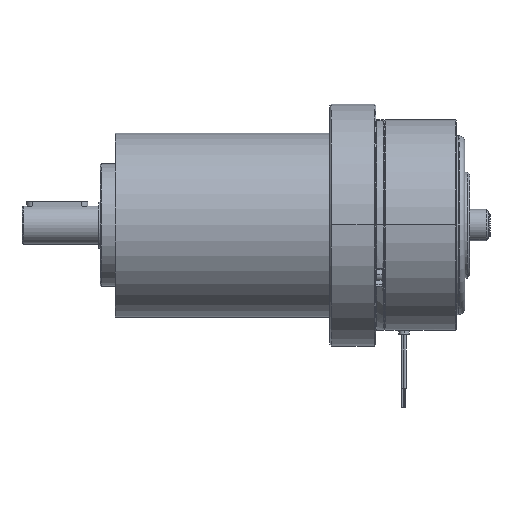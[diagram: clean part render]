
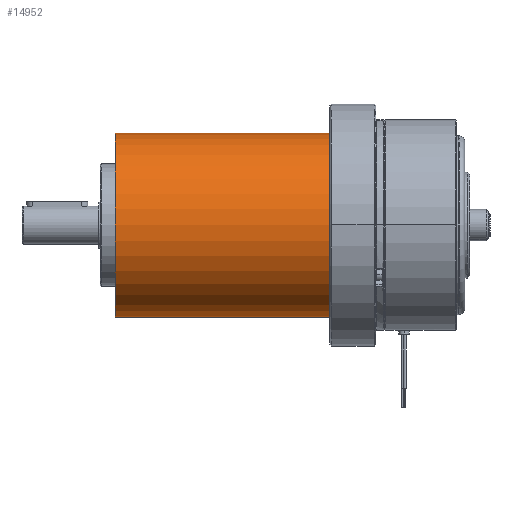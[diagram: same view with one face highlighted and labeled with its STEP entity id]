
A CAD part, top view. The second image highlights one B-rep face of the part: STEP entity #14952.
In plain terms, the highlighted cylindrical face has radius 60 mm (diameter 120 mm), a partial arc.
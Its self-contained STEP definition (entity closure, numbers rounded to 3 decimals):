
#613 = VERTEX_POINT ( 'NONE', #28303 ) ;
#1655 = CARTESIAN_POINT ( 'NONE',  ( 201., 0., 0. ) ) ;
#1694 = CARTESIAN_POINT ( 'NONE',  ( 131., 0., 0. ) ) ;
#1912 = VECTOR ( 'NONE', #25376, 1000. ) ;
#2157 = ORIENTED_EDGE ( 'NONE', *, *, #10562, .F. ) ;
#2695 = AXIS2_PLACEMENT_3D ( 'NONE', #44827, #48297, #9371 ) ;
#6292 = DIRECTION ( 'NONE',  ( 0., 1., 0. ) ) ;
#6875 = EDGE_CURVE ( 'NONE', #57214, #35471, #17640, .T. ) ;
#9371 = DIRECTION ( 'NONE',  ( 0., 1., 0. ) ) ;
#10562 = EDGE_CURVE ( 'NONE', #57214, #613, #17580, .T. ) ;
#11966 = EDGE_CURVE ( 'NONE', #613, #15717, #34947, .T. ) ;
#14952 = ADVANCED_FACE ( 'NONE', ( #28101 ), #23722, .T. ) ;
#15319 = ORIENTED_EDGE ( 'NONE', *, *, #11966, .F. ) ;
#15717 = VERTEX_POINT ( 'NONE', #28533 ) ;
#17265 = CARTESIAN_POINT ( 'NONE',  ( 131., -60., 0. ) ) ;
#17389 = AXIS2_PLACEMENT_3D ( 'NONE', #1655, #37041, #54718 ) ;
#17580 = LINE ( 'NONE', #21639, #18170 ) ;
#17640 = CIRCLE ( 'NONE', #2695, 60. ) ;
#18170 = VECTOR ( 'NONE', #40755, 1000. ) ;
#21639 = CARTESIAN_POINT ( 'NONE',  ( 131., 60., 0. ) ) ;
#23722 = CYLINDRICAL_SURFACE ( 'NONE', #35477, 60. ) ;
#24482 = LINE ( 'NONE', #17265, #1912 ) ;
#25376 = DIRECTION ( 'NONE',  ( 1., 0., 0. ) ) ;
#27010 = CARTESIAN_POINT ( 'NONE',  ( 61., -60., 0. ) ) ;
#28101 = FACE_OUTER_BOUND ( 'NONE', #47216, .T. ) ;
#28303 = CARTESIAN_POINT ( 'NONE',  ( 201., 60., 0. ) ) ;
#28533 = CARTESIAN_POINT ( 'NONE',  ( 201., -60., 0. ) ) ;
#34947 = CIRCLE ( 'NONE', #17389, 60. ) ;
#35471 = VERTEX_POINT ( 'NONE', #27010 ) ;
#35477 = AXIS2_PLACEMENT_3D ( 'NONE', #1694, #49859, #6292 ) ;
#37041 = DIRECTION ( 'NONE',  ( 1., 0., 0. ) ) ;
#40755 = DIRECTION ( 'NONE',  ( 1., 0., 0. ) ) ;
#42111 = ORIENTED_EDGE ( 'NONE', *, *, #6875, .T. ) ;
#42573 = ORIENTED_EDGE ( 'NONE', *, *, #57130, .T. ) ;
#44827 = CARTESIAN_POINT ( 'NONE',  ( 61., 0., 0. ) ) ;
#47216 = EDGE_LOOP ( 'NONE', ( #42111, #42573, #15319, #2157 ) ) ;
#48297 = DIRECTION ( 'NONE',  ( 1., 0., 0. ) ) ;
#49717 = CARTESIAN_POINT ( 'NONE',  ( 61., 60., 0. ) ) ;
#49859 = DIRECTION ( 'NONE',  ( 1., 0., 0. ) ) ;
#54718 = DIRECTION ( 'NONE',  ( 0., 1., 0. ) ) ;
#57130 = EDGE_CURVE ( 'NONE', #35471, #15717, #24482, .T. ) ;
#57214 = VERTEX_POINT ( 'NONE', #49717 ) ;
